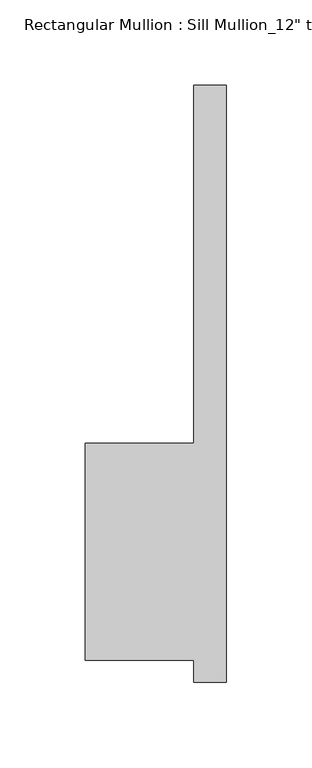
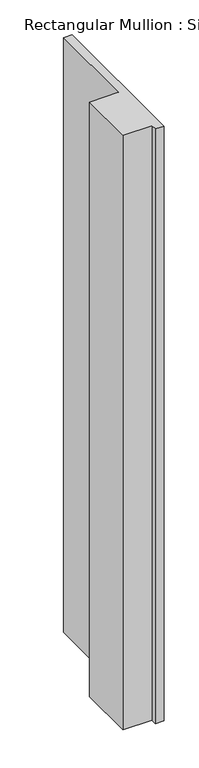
"""IFC4 building model written with IfcOpenShell, lengths in millimetres: member geometry."""

from ifc_helpers import new_model, si_unit, frame, origin, place, context, project, spatial, polyline, outline, extrude, source, transform, mapped, element, save


def member_d6f684d4(model_context):
    return source(origin(), model_context, "Body", "SweptSolid", [
        extrude(outline(polyline([(-82.55, 50.8), (-19.05, 50.8), (-19.05, 260.35), (0.0, 260.35), (0.0, -88.9), (-19.05, -88.9), (-19.05, -76.2), (-82.55, -76.2), (-82.55, 50.8)])), frame((0.0, 0.0, -1381.91875), z_axis=(0.0, 0.0, 1.0), x_axis=(1.0, 0.0, 0.0)), (0.0, 0.0, 1.0), 1381.91875),
    ])


if __name__ == "__main__":
    model = new_model("IFC4")
    model_context = context("Model", 3, world=origin())
    ifc_project = project(units=[si_unit("LENGTHUNIT", "METRE", prefix="MILLI")], contexts=[model_context])
    site = spatial("IfcSite", under=ifc_project)
    building = spatial("IfcBuilding", under=site)
    placement = place(None, origin())
    member_shape = member_d6f684d4(model_context)
    element("IfcMember", 1, ObjectType="Rectangular Mullion : Sill Mullion_12\" thick wall", at=placement, inside=building, context=model_context, shape_type="MappedRepresentation", body=[
        mapped(member_shape, transform((0.0, 0.0, 0.0), x_axis=(1.0, 0.0, 0.0), y_axis=(0.0, 1.0, 0.0), z_axis=(0.0, 0.0, 1.0))),
    ])
    save(model, "model.ifc")
